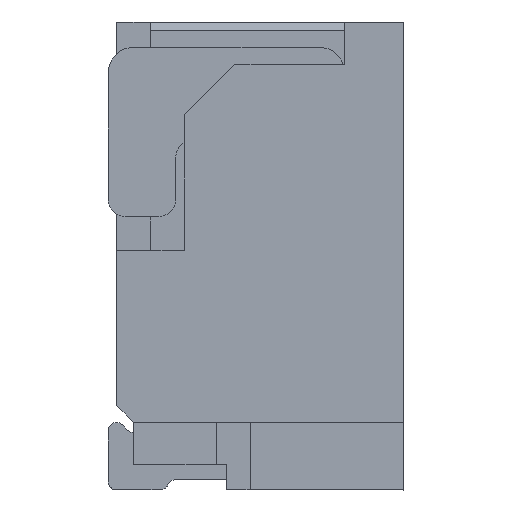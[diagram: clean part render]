
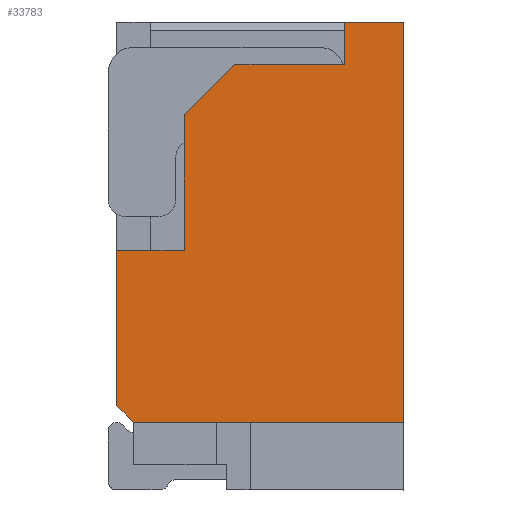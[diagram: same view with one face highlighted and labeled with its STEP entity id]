
A CAD part, left-side view. The second image highlights one B-rep face of the part: STEP entity #33783.
In plain terms, the highlighted planar face has unit normal (-1, 0, 0).
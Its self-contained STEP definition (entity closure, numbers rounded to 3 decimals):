
#414 = VERTEX_POINT ( 'NONE', #32462 ) ;
#744 = CARTESIAN_POINT ( 'NONE',  ( -1.425, 1.151, -1.45 ) ) ;
#761 = DIRECTION ( 'NONE',  ( 0., -1., 0. ) ) ;
#1100 = DIRECTION ( 'NONE',  ( 0., -1., 0. ) ) ;
#1364 = ORIENTED_EDGE ( 'NONE', *, *, #20189, .F. ) ;
#1669 = CARTESIAN_POINT ( 'NONE',  ( -1.425, 1.551, -1.45 ) ) ;
#2014 = VERTEX_POINT ( 'NONE', #33118 ) ;
#2764 = EDGE_CURVE ( 'NONE', #23566, #29701, #33726, .T. ) ;
#3743 = EDGE_CURVE ( 'NONE', #414, #23091, #18668, .T. ) ;
#3850 = ORIENTED_EDGE ( 'NONE', *, *, #10977, .T. ) ;
#3908 = EDGE_LOOP ( 'NONE', ( #3850, #31028, #26551, #20079, #32529, #11038, #1364, #23401, #19284, #12778 ) ) ;
#5463 = EDGE_CURVE ( 'NONE', #13366, #31755, #17177, .T. ) ;
#6166 = LINE ( 'NONE', #11619, #13184 ) ;
#6865 = DIRECTION ( 'NONE',  ( 0., -0.707, 0.707 ) ) ;
#8059 = CARTESIAN_POINT ( 'NONE',  ( -1.425, 1.451, -2.47 ) ) ;
#8496 = DIRECTION ( 'NONE',  ( 0., 0., 1. ) ) ;
#10468 = CARTESIAN_POINT ( 'NONE',  ( -1.425, 1.551, -20.1 ) ) ;
#10540 = DIRECTION ( 'NONE',  ( 0., -1., 0. ) ) ;
#10792 = FACE_OUTER_BOUND ( 'NONE', #3908, .T. ) ;
#10977 = EDGE_CURVE ( 'NONE', #16259, #13366, #15856, .T. ) ;
#11038 = ORIENTED_EDGE ( 'NONE', *, *, #15574, .F. ) ;
#11082 = DIRECTION ( 'NONE',  ( 0., 0., -1. ) ) ;
#11237 = AXIS2_PLACEMENT_3D ( 'NONE', #34798, #26682, #27027 ) ;
#11619 = CARTESIAN_POINT ( 'NONE',  ( -1.425, 10.226, -9.725 ) ) ;
#11679 = CARTESIAN_POINT ( 'NONE',  ( -1.425, -0.149, -1.45 ) ) ;
#12778 = ORIENTED_EDGE ( 'NONE', *, *, #22250, .F. ) ;
#13184 = VECTOR ( 'NONE', #6865, 1000. ) ;
#13366 = VERTEX_POINT ( 'NONE', #8059 ) ;
#13543 = CARTESIAN_POINT ( 'NONE',  ( -1.425, -0.149, -0.1 ) ) ;
#13566 = CARTESIAN_POINT ( 'NONE',  ( -1.425, -0.149, -2.47 ) ) ;
#13889 = DIRECTION ( 'NONE',  ( 0., 1., 0. ) ) ;
#13896 = CARTESIAN_POINT ( 'NONE',  ( -1.425, 0.201, -0.35 ) ) ;
#15574 = EDGE_CURVE ( 'NONE', #33729, #23091, #21297, .T. ) ;
#15855 = CARTESIAN_POINT ( 'NONE',  ( -1.425, 1.151, -20.1 ) ) ;
#15856 = LINE ( 'NONE', #26785, #27356 ) ;
#16259 = VERTEX_POINT ( 'NONE', #31894 ) ;
#16815 = VECTOR ( 'NONE', #761, 1000. ) ;
#17177 = LINE ( 'NONE', #19632, #16815 ) ;
#18492 = DIRECTION ( 'NONE',  ( 0., -0.707, -0.707 ) ) ;
#18668 = LINE ( 'NONE', #32447, #27403 ) ;
#19284 = ORIENTED_EDGE ( 'NONE', *, *, #2764, .F. ) ;
#19632 = CARTESIAN_POINT ( 'NONE',  ( -1.425, -0.149, -2.47 ) ) ;
#19748 = EDGE_CURVE ( 'NONE', #31755, #26261, #32669, .T. ) ;
#19912 = VECTOR ( 'NONE', #8496, 1000. ) ;
#20079 = ORIENTED_EDGE ( 'NONE', *, *, #21458, .T. ) ;
#20189 = EDGE_CURVE ( 'NONE', #2014, #33729, #6166, .T. ) ;
#20345 = CARTESIAN_POINT ( 'NONE',  ( -1.425, 0.851, -0.35 ) ) ;
#21091 = VECTOR ( 'NONE', #13889, 1000. ) ;
#21297 = LINE ( 'NONE', #32716, #26716 ) ;
#21458 = EDGE_CURVE ( 'NONE', #26261, #414, #26949, .T. ) ;
#22250 = EDGE_CURVE ( 'NONE', #16259, #23566, #26528, .T. ) ;
#23026 = EDGE_CURVE ( 'NONE', #29701, #2014, #31739, .T. ) ;
#23091 = VERTEX_POINT ( 'NONE', #13896 ) ;
#23401 = ORIENTED_EDGE ( 'NONE', *, *, #23026, .F. ) ;
#23566 = VERTEX_POINT ( 'NONE', #1669 ) ;
#23625 = DIRECTION ( 'NONE',  ( 0., 0., 1. ) ) ;
#23860 = PLANE ( 'NONE',  #11237 ) ;
#25217 = CARTESIAN_POINT ( 'NONE',  ( -1.425, -0.149, -0.1 ) ) ;
#26003 = VECTOR ( 'NONE', #23625, 1000. ) ;
#26261 = VERTEX_POINT ( 'NONE', #25217 ) ;
#26528 = LINE ( 'NONE', #10468, #31802 ) ;
#26551 = ORIENTED_EDGE ( 'NONE', *, *, #19748, .T. ) ;
#26682 = DIRECTION ( 'NONE',  ( 1., 0., 0. ) ) ;
#26716 = VECTOR ( 'NONE', #10540, 1000. ) ;
#26785 = CARTESIAN_POINT ( 'NONE',  ( -1.425, 1.551, -2.37 ) ) ;
#26949 = LINE ( 'NONE', #13543, #21091 ) ;
#27027 = DIRECTION ( 'NONE',  ( 0., 1., 0. ) ) ;
#27356 = VECTOR ( 'NONE', #18492, 1000. ) ;
#27403 = VECTOR ( 'NONE', #11082, 1000. ) ;
#29701 = VERTEX_POINT ( 'NONE', #744 ) ;
#30753 = VECTOR ( 'NONE', #1100, 1000. ) ;
#31028 = ORIENTED_EDGE ( 'NONE', *, *, #5463, .T. ) ;
#31739 = LINE ( 'NONE', #15855, #26003 ) ;
#31755 = VERTEX_POINT ( 'NONE', #13566 ) ;
#31802 = VECTOR ( 'NONE', #31991, 1000. ) ;
#31894 = CARTESIAN_POINT ( 'NONE',  ( -1.425, 1.551, -2.37 ) ) ;
#31991 = DIRECTION ( 'NONE',  ( 0., 0., 1. ) ) ;
#32447 = CARTESIAN_POINT ( 'NONE',  ( -1.425, 0.201, -20.1 ) ) ;
#32462 = CARTESIAN_POINT ( 'NONE',  ( -1.425, 0.201, -0.1 ) ) ;
#32529 = ORIENTED_EDGE ( 'NONE', *, *, #3743, .T. ) ;
#32669 = LINE ( 'NONE', #32848, #19912 ) ;
#32716 = CARTESIAN_POINT ( 'NONE',  ( -1.425, -0.149, -0.35 ) ) ;
#32848 = CARTESIAN_POINT ( 'NONE',  ( -1.425, -0.149, -20.1 ) ) ;
#33118 = CARTESIAN_POINT ( 'NONE',  ( -1.425, 1.151, -0.65 ) ) ;
#33726 = LINE ( 'NONE', #11679, #30753 ) ;
#33729 = VERTEX_POINT ( 'NONE', #20345 ) ;
#33783 = ADVANCED_FACE ( 'NONE', ( #10792 ), #23860, .F. ) ;
#34798 = CARTESIAN_POINT ( 'NONE',  ( -1.425, -0.149, -20.1 ) ) ;
